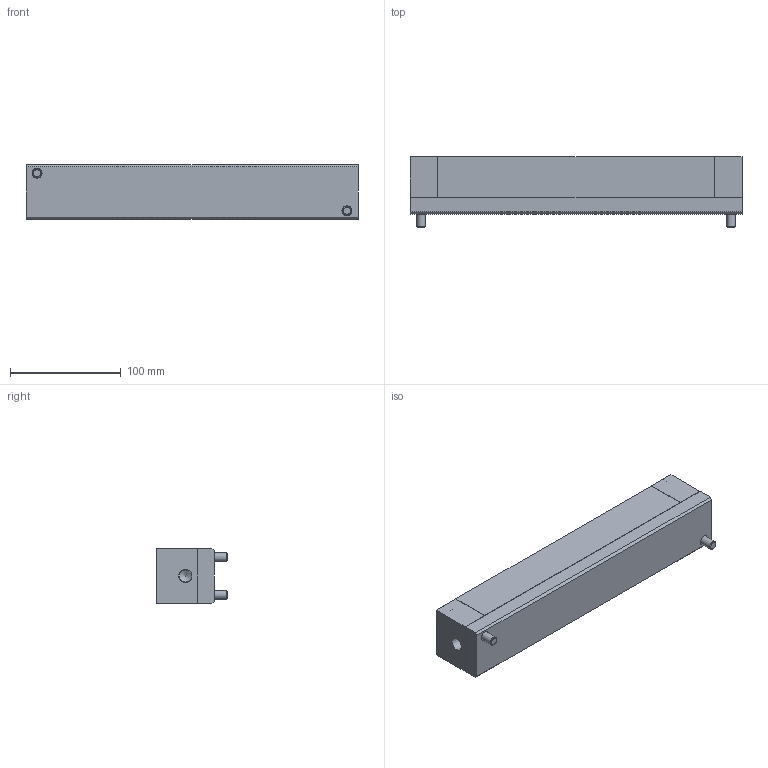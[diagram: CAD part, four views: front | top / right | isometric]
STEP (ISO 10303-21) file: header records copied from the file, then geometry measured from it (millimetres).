
FILE_DESCRIPTION( ( 'STEP AP214' ), '1' );
FILE_NAME( 'Z:/01-DesignData/標準品図面/★Web／カタログ用データ(型式別 3点Set)/070-ISR50D 系/ISR-50D-300-A_0_.stp', '2022-05-10T00:30:22', ( 'License CC BY-ND 4.0' ), ( 'CADENAS' ), ' ', 'PARTsolutions', ' ' );
FILE_SCHEMA( ( 'AUTOMOTIVE_DESIGN { 1 0 10303 214 1 1 1 1 }' ) );
Length unit declared in the file: millimetre
Products named in the file (5): ISR-50D-300-A(0); _ISR-50D-300-A-Body; _ISR-50D-300-A-Box; _ISR-50D-300-A(0)-Ball; _ISR-50D-300-A-screw
Assembly tree (9 placements, depth 2):
  ISR-50D-300-A(0)
    _ISR-50D-300-A-Body
    _ISR-50D-300-A-Box
    _ISR-50D-300-A(0)-Ball  x5
    _ISR-50D-300-A-screw  x2
Bounding box: 300 x 64 x 49.5 mm (x, y, z)
Volume: 729219.6 mm3; surface area: 166873.1 mm2
Topology: 9 solids, 9 shells, 383 faces, 812 edges, 500 vertices
Faces by surface type: plane 279, cylinder 57, cone 28, torus 14, sphere 5
Full cylindrical faces by diameter (mm): 8 x2, 8.5 x10, 9 x2, 9.5 x10, 13 x4, 14.5 x4, 33 x5, 38.5 x5, 39 x5, 42 x10
Entity records: 10668 total; most frequent: DIRECTION 1434, CARTESIAN_POINT 1332, ORIENTED_EDGE 1184, EDGE_CURVE 592, AXIS2_PLACEMENT_3D 513, EDGE_LOOP 438, VERTEX_POINT 411, LINE 408
